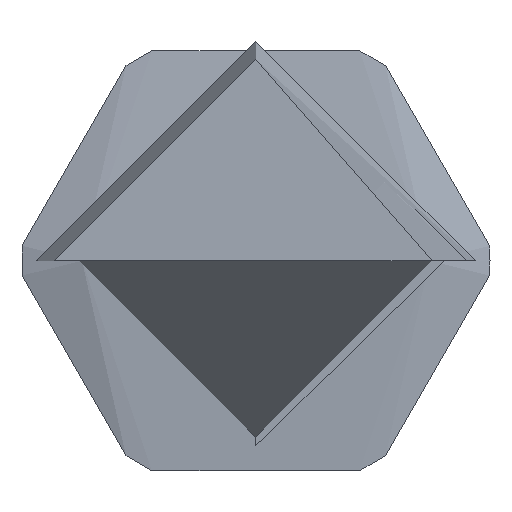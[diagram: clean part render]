
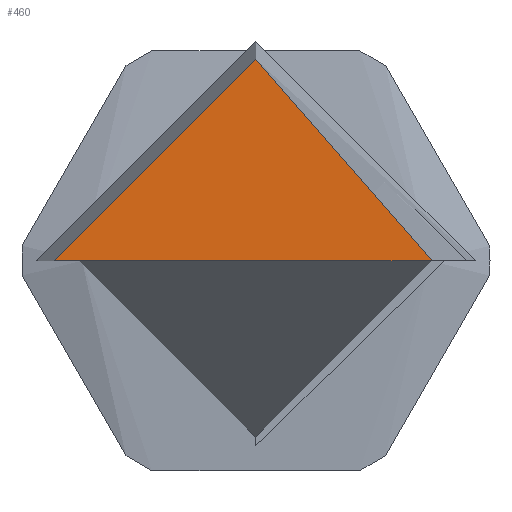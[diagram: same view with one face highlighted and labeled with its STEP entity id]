
A CAD part, left-side view. The second image highlights one B-rep face of the part: STEP entity #460.
In plain terms, the highlighted free-form (B-spline) face has degree [1, 1] with [2, 2] control points.
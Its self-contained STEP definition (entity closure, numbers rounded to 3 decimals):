
#460 = ADVANCED_FACE('',(#461,#483),#505,.T.);
#461 = FACE_BOUND('',#462,.T.);
#462 = EDGE_LOOP('',(#463,#473));
#463 = ORIENTED_EDGE('',*,*,#464,.F.);
#464 = EDGE_CURVE('',#465,#467,#469,.T.);
#465 = VERTEX_POINT('',#466);
#466 = CARTESIAN_POINT('',(0.,24.,0.));
#467 = VERTEX_POINT('',#468);
#468 = CARTESIAN_POINT('',(0.,0.,24.));
#469 = ( BOUNDED_CURVE() B_SPLINE_CURVE(2,(#470,#471,#472),
.UNSPECIFIED.,.F.,.F.) B_SPLINE_CURVE_WITH_KNOTS((3,3),(0.,
1.571),.PIECEWISE_BEZIER_KNOTS.) CURVE() 
GEOMETRIC_REPRESENTATION_ITEM() RATIONAL_B_SPLINE_CURVE((1.,
0.707,1.)) REPRESENTATION_ITEM('') );
#470 = CARTESIAN_POINT('',(0.,24.,0.));
#471 = CARTESIAN_POINT('',(0.,24.,24.));
#472 = CARTESIAN_POINT('',(0.,0.,24.));
#473 = ORIENTED_EDGE('',*,*,#474,.F.);
#474 = EDGE_CURVE('',#467,#465,#475,.T.);
#475 = ( BOUNDED_CURVE() B_SPLINE_CURVE(2,(#476,#477,#478,#479,#480,#481
,#482),.UNSPECIFIED.,.F.,.F.) B_SPLINE_CURVE_WITH_KNOTS((3,2,2,3),(
    1.571,3.142,4.712,6.283),
.UNSPECIFIED.) CURVE() GEOMETRIC_REPRESENTATION_ITEM() 
RATIONAL_B_SPLINE_CURVE((1.,0.707,1.,0.707,1.,
0.707,1.)) REPRESENTATION_ITEM('') );
#476 = CARTESIAN_POINT('',(0.,0.,24.));
#477 = CARTESIAN_POINT('',(0.,-24.,24.));
#478 = CARTESIAN_POINT('',(0.,-24.,0.));
#479 = CARTESIAN_POINT('',(0.,-24.,-24.));
#480 = CARTESIAN_POINT('',(0.,0.,-24.));
#481 = CARTESIAN_POINT('',(0.,24.,-24.));
#482 = CARTESIAN_POINT('',(0.,24.,0.));
#483 = FACE_BOUND('',#484,.T.);
#484 = EDGE_LOOP('',(#485,#497));
#485 = ORIENTED_EDGE('',*,*,#486,.T.);
#486 = EDGE_CURVE('',#487,#489,#491,.T.);
#487 = VERTEX_POINT('',#488);
#488 = CARTESIAN_POINT('',(0.,21.,0.));
#489 = VERTEX_POINT('',#490);
#490 = CARTESIAN_POINT('',(0.,-21.,0.));
#491 = ( BOUNDED_CURVE() B_SPLINE_CURVE(2,(#492,#493,#494,#495,#496),
.UNSPECIFIED.,.F.,.F.) B_SPLINE_CURVE_WITH_KNOTS((3,2,3),(0.,
1.571,3.142),.UNSPECIFIED.) CURVE() 
GEOMETRIC_REPRESENTATION_ITEM() RATIONAL_B_SPLINE_CURVE((1.,
0.707,1.,0.707,1.)) REPRESENTATION_ITEM('') );
#492 = CARTESIAN_POINT('',(0.,21.,0.));
#493 = CARTESIAN_POINT('',(0.,21.,21.));
#494 = CARTESIAN_POINT('',(0.,0.,21.));
#495 = CARTESIAN_POINT('',(0.,-21.,21.));
#496 = CARTESIAN_POINT('',(0.,-21.,0.));
#497 = ORIENTED_EDGE('',*,*,#498,.T.);
#498 = EDGE_CURVE('',#489,#487,#499,.T.);
#499 = ( BOUNDED_CURVE() B_SPLINE_CURVE(2,(#500,#501,#502,#503,#504),
.UNSPECIFIED.,.F.,.F.) B_SPLINE_CURVE_WITH_KNOTS((3,2,3),(3.142,
4.712,6.283),.PIECEWISE_BEZIER_KNOTS.) CURVE() 
GEOMETRIC_REPRESENTATION_ITEM() RATIONAL_B_SPLINE_CURVE((1.,
0.707,1.,0.707,1.)) REPRESENTATION_ITEM('') );
#500 = CARTESIAN_POINT('',(0.,-21.,0.));
#501 = CARTESIAN_POINT('',(0.,-21.,-21.));
#502 = CARTESIAN_POINT('',(0.,0.,-21.));
#503 = CARTESIAN_POINT('',(0.,21.,-21.));
#504 = CARTESIAN_POINT('',(0.,21.,0.));
#505 = B_SPLINE_SURFACE_WITH_KNOTS('',1,1,(
    (#506,#507)
    ,(#508,#509
    )),.UNSPECIFIED.,.F.,.F.,.F.,(2,2),(2,2),(-2.401,2.401),(-4.651,
    0.151),.PIECEWISE_BEZIER_KNOTS.);
#506 = CARTESIAN_POINT('',(0.,-24.01,-24.01));
#507 = CARTESIAN_POINT('',(0.,24.01,-24.01));
#508 = CARTESIAN_POINT('',(0.,-24.01,24.01));
#509 = CARTESIAN_POINT('',(0.,24.01,24.01));
